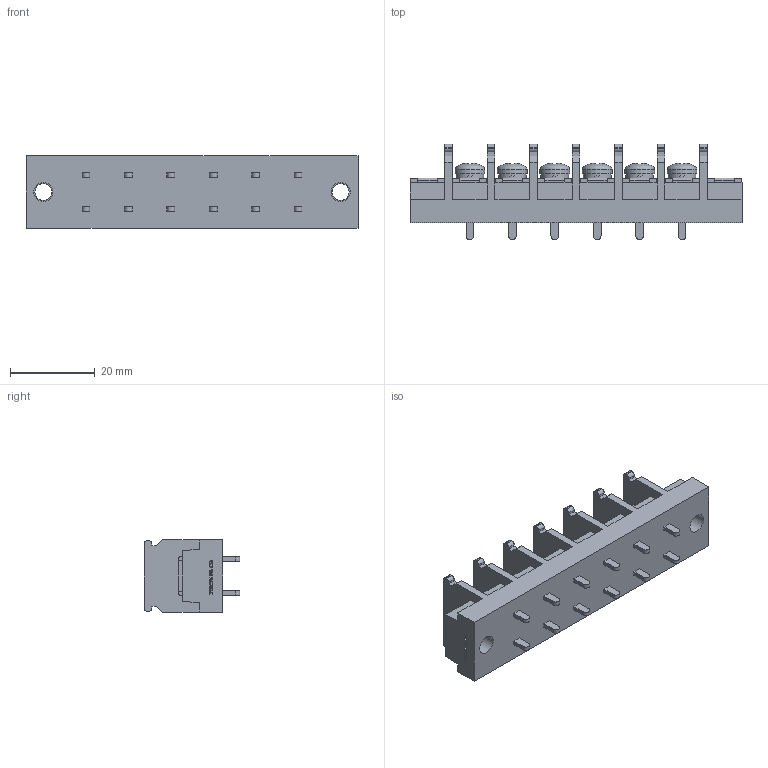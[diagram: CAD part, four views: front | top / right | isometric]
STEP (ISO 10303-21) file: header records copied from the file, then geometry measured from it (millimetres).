
FILE_DESCRIPTION(/* description */ ('Alibre Inc.'),/* implementation_level */ '2;1');
FILE_NAME(/* name */ 'export0',/* time_stamp */ '2015-10-17T15:46:03+09:00',/* author */ (''),/* organization */ (''),/* preprocessor_version */ 'ST-DEVELOPER v14',/* originating_system */ 'Alibre',/* authorisation */ '');
FILE_SCHEMA (('CONFIG_CONTROL_DESIGN'));
Length unit declared in the file: centimetre
Products named in the file (1): ID_1
Bounding box: 78.2 x 22.5 x 17 mm (x, y, z)
Volume: 14100.9 mm3; surface area: 8437.3 mm2
Topology: 1 solids, 17 shells, 876 faces, 2364 edges, 1570 vertices
Faces by surface type: plane 652, bspline 104, cylinder 78, cone 24, torus 12, sphere 6
Full cylindrical faces by diameter (mm): 4 x8, 4.5 x2, 6.5 x6, 7 x6
Entity records: 26550 total; most frequent: CARTESIAN_POINT 5855, ORIENTED_EDGE 4636, DIRECTION 3270, EDGE_CURVE 2318, VECTOR 1728, LINE 1728, VERTEX_POINT 1552, AXIS2_PLACEMENT_3D 1087
